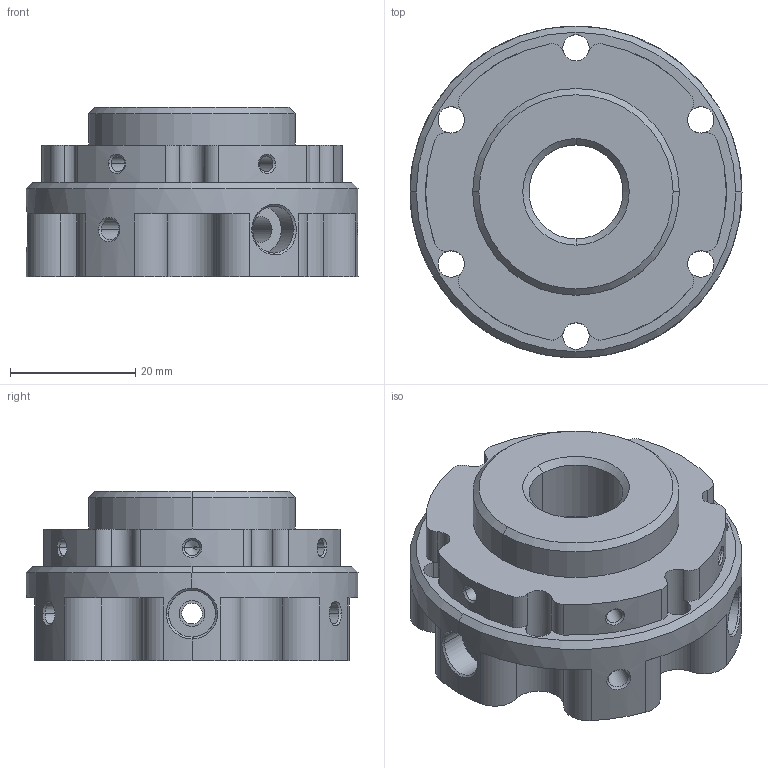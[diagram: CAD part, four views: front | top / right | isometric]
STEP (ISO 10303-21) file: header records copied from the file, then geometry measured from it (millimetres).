
FILE_DESCRIPTION((''),'2;1');
FILE_NAME('JXB-PR60-RED','2019-12-03T',('Win10'),(''),'PRO/ENGINEER BY PARAMETRIC TECHNOLOGY CORPORATION, 2010280','PRO/ENGINEER BY PARAMETRIC TECHNOLOGY CORPORATION, 2010280','');
FILE_SCHEMA(('AUTOMOTIVE_DESIGN_CC2 { 1 2 10303 214 -1 1 5 2 }'));
Length unit declared in the file: millimetre
Products named in the file (1): JXB-PR60-RED
Bounding box: 53 x 53 x 27 mm (x, y, z)
Volume: 31658.3 mm3; surface area: 11542.4 mm2
Topology: 1 solids, 1 shells, 182 faces, 474 edges, 286 vertices
Faces by surface type: cylinder 90, cone 38, bspline 28, plane 26
Entity records: 9088 total; most frequent: CARTESIAN_POINT 3262, ORIENTED_EDGE 924, DIRECTION 920, PRESENTATION_STYLE_ASSIGNMENT 463, STYLED_ITEM 463, CURVE_STYLE 462, EDGE_CURVE 462, AXIS2_PLACEMENT_3D 360
